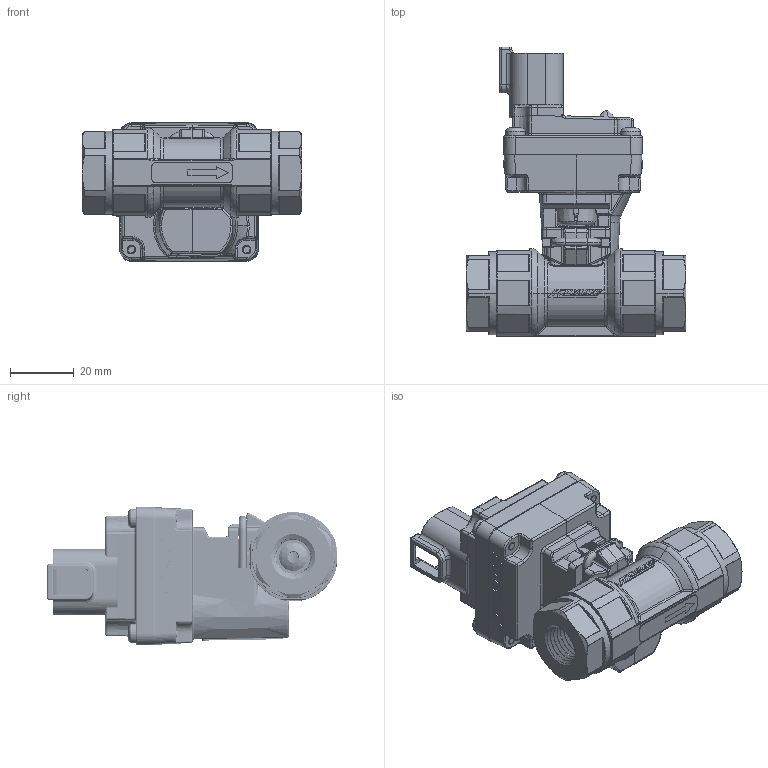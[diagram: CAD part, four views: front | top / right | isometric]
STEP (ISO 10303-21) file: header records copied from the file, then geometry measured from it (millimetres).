
FILE_DESCRIPTION (( 'STEP AP203' ), '1' );
FILE_NAME ('S8B28-1CEBS-D01.STEP', '2025-05-13T19:45:08', ( '' ), ( '' ), 'SwSTEP 2.0', 'SolidWorks 2021', '' );
FILE_SCHEMA (( 'CONFIG_CONTROL_DESIGN' ));
Length unit declared in the file: inch
Products named in the file (1): S8B28-1CEBS-D01
Bounding box: 68.78 x 90.7 x 43.37 mm (x, y, z)
Surface area: 49307.7 mm2 (no closed solid volume)
Topology: 0 solids, 31 shells, 3610 faces, 8892 edges, 5241 vertices
Faces by surface type: cylinder 1225, bspline 725, plane 692, torus 581, cone 216, sphere 171
Entity records: 143206 total; most frequent: CARTESIAN_POINT 65495, ORIENTED_EDGE 17344, DIRECTION 15344, EDGE_CURVE 8680, AXIS2_PLACEMENT_3D 6210, VERTEX_POINT 5193, EDGE_LOOP 3741, FACE_OUTER_BOUND 3610
